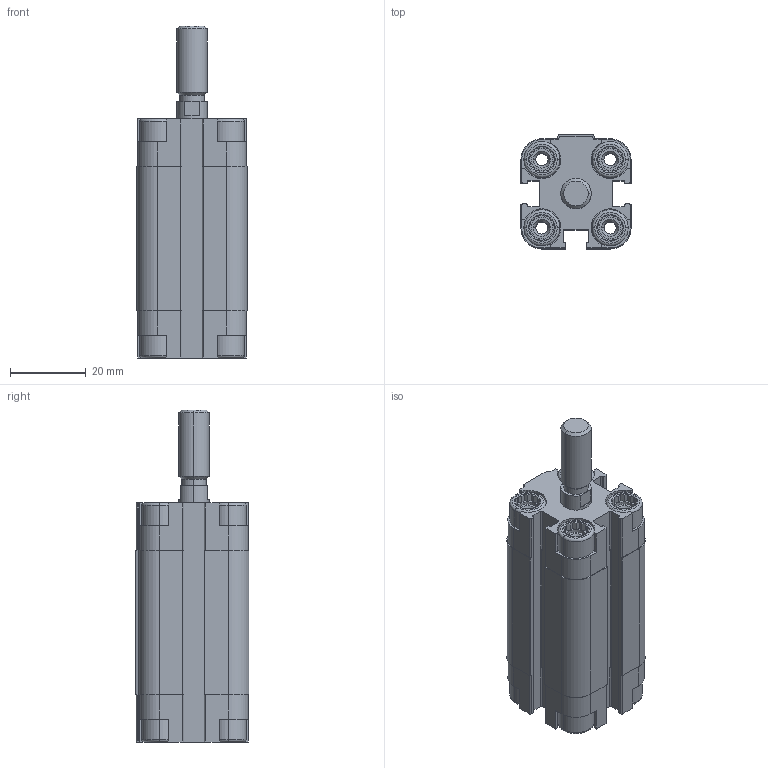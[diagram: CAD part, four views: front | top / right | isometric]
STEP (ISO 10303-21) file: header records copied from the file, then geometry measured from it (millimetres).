
FILE_DESCRIPTION (( 'STEP AP203' ), '1' );
FILE_NAME ('CDVU16-25.STEP', '2020-03-18T10:34:34', ( '' ), ( '' ), 'SwSTEP 2.0', 'SolidWorks 2019', '' );
FILE_SCHEMA (( 'CONFIG_CONTROL_DESIGN' ));
Length unit declared in the file: millimetre
Products named in the file (1): CDVU16-25
Bounding box: 29 x 30 x 87.5 mm (x, y, z)
Volume: 37091.5 mm3; surface area: 20764.6 mm2
Topology: 2 solids, 2 shells, 553 faces, 1472 edges, 958 vertices
Faces by surface type: plane 333, cylinder 158, cone 46, torus 16
Entity records: 17381 total; most frequent: CARTESIAN_POINT 3556, ORIENTED_EDGE 2936, DIRECTION 2776, EDGE_CURVE 1468, VERTEX_POINT 958, AXIS2_PLACEMENT_3D 946, VECTOR 884, LINE 884
